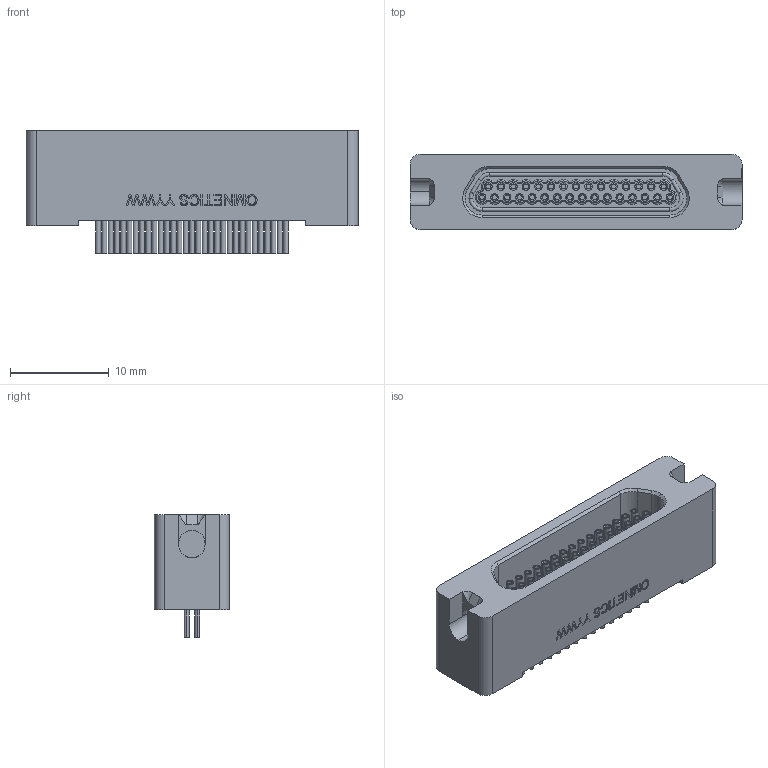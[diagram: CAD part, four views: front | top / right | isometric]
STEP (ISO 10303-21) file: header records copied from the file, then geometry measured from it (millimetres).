
FILE_DESCRIPTION (( 'STEP AP214' ), '1' );
FILE_NAME ('A99550-031 REV A.STEP', '2015-08-21T16:01:26', ( '' ), ( '' ), 'SwSTEP 2.0', 'SolidWorks 2015', '' );
FILE_SCHEMA (( 'AUTOMOTIVE_DESIGN' ));
Length unit declared in the file: inch
Products named in the file (1): A99550-031 REV 1
Bounding box: 33.66 x 7.63 x 12.45 mm (x, y, z)
Volume: 1864.4 mm3; surface area: 2739.6 mm2
Topology: 1 solids, 69 shells, 1240 faces, 2770 edges, 1744 vertices
Faces by surface type: cylinder 581, plane 398, torus 132, cone 75, bspline 54
Entity records: 39647 total; most frequent: CARTESIAN_POINT 11173, DIRECTION 6269, ORIENTED_EDGE 5416, EDGE_CURVE 2708, AXIS2_PLACEMENT_3D 2562, VERTEX_POINT 1744, EDGE_LOOP 1444, CIRCLE 1375
